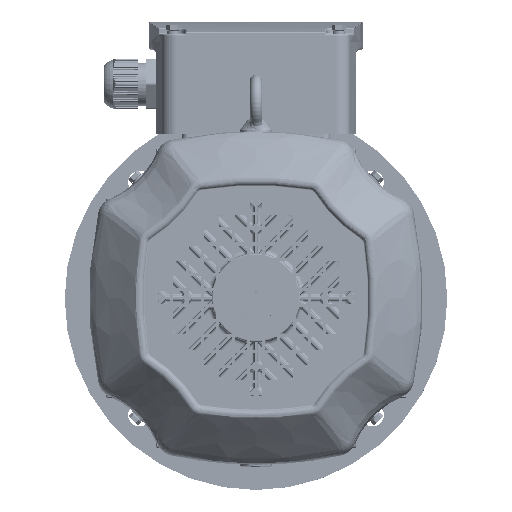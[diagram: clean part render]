
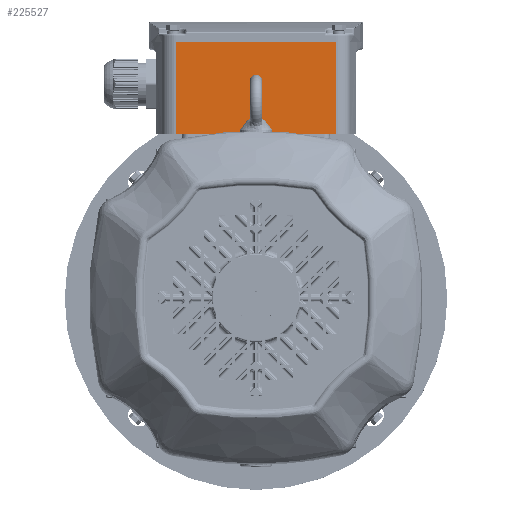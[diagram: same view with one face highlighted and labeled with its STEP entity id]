
A CAD part, top view. The second image highlights one B-rep face of the part: STEP entity #225527.
In plain terms, the highlighted planar face has unit normal (0, 0, 1).
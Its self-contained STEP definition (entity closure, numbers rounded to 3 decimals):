
#957 = VECTOR ( 'NONE', #175001, 1000. ) ;
#21855 = VECTOR ( 'NONE', #76669, 1000. ) ;
#67855 = PLANE ( 'NONE',  #184845 ) ;
#75575 = CARTESIAN_POINT ( 'NONE',  ( -51.946, 107.5, 1.5 ) ) ;
#76398 = CARTESIAN_POINT ( 'NONE',  ( 51.946, 167.5, 1.5 ) ) ;
#76669 = DIRECTION ( 'NONE',  ( 1., 0., 0. ) ) ;
#85270 = EDGE_CURVE ( 'NONE', #339993, #233689, #317741, .T. ) ;
#92945 = CARTESIAN_POINT ( 'NONE',  ( 51.946, 107.5, 1.5 ) ) ;
#102428 = VECTOR ( 'NONE', #291460, 1000. ) ;
#118758 = VECTOR ( 'NONE', #265079, 1000. ) ;
#123236 = DIRECTION ( 'NONE',  ( 0., 0., 1. ) ) ;
#125906 = ORIENTED_EDGE ( 'NONE', *, *, #181496, .F. ) ;
#138941 = ORIENTED_EDGE ( 'NONE', *, *, #205281, .T. ) ;
#144355 = LINE ( 'NONE', #147810, #957 ) ;
#147810 = CARTESIAN_POINT ( 'NONE',  ( -59.45, 107.5, 1.5 ) ) ;
#151954 = ORIENTED_EDGE ( 'NONE', *, *, #85270, .T. ) ;
#170043 = ORIENTED_EDGE ( 'NONE', *, *, #270363, .T. ) ;
#175001 = DIRECTION ( 'NONE',  ( 1., 0., 0. ) ) ;
#179365 = CARTESIAN_POINT ( 'NONE',  ( -51.946, 107.5, 1.5 ) ) ;
#181496 = EDGE_CURVE ( 'NONE', #339993, #272743, #190740, .T. ) ;
#184845 = AXIS2_PLACEMENT_3D ( 'NONE', #284917, #123236, #311975 ) ;
#190740 = LINE ( 'NONE', #265351, #21855 ) ;
#202034 = FACE_OUTER_BOUND ( 'NONE', #324399, .T. ) ;
#205281 = EDGE_CURVE ( 'NONE', #345190, #272743, #262305, .T. ) ;
#225527 = ADVANCED_FACE ( 'NONE', ( #202034 ), #67855, .T. ) ;
#233689 = VERTEX_POINT ( 'NONE', #179365 ) ;
#237709 = CARTESIAN_POINT ( 'NONE',  ( 51.946, 167.5, 1.5 ) ) ;
#262305 = LINE ( 'NONE', #76398, #118758 ) ;
#265079 = DIRECTION ( 'NONE',  ( 0., 1., 0. ) ) ;
#265237 = CARTESIAN_POINT ( 'NONE',  ( -51.946, 167.5, 1.5 ) ) ;
#265351 = CARTESIAN_POINT ( 'NONE',  ( -59.45, 167.5, 1.5 ) ) ;
#270363 = EDGE_CURVE ( 'NONE', #233689, #345190, #144355, .T. ) ;
#272743 = VERTEX_POINT ( 'NONE', #237709 ) ;
#284917 = CARTESIAN_POINT ( 'NONE',  ( -59.45, 107.5, 1.5 ) ) ;
#291460 = DIRECTION ( 'NONE',  ( 0., -1., 0. ) ) ;
#311975 = DIRECTION ( 'NONE',  ( 1., 0., 0. ) ) ;
#317741 = LINE ( 'NONE', #75575, #102428 ) ;
#324399 = EDGE_LOOP ( 'NONE', ( #125906, #151954, #170043, #138941 ) ) ;
#339993 = VERTEX_POINT ( 'NONE', #265237 ) ;
#345190 = VERTEX_POINT ( 'NONE', #92945 ) ;
